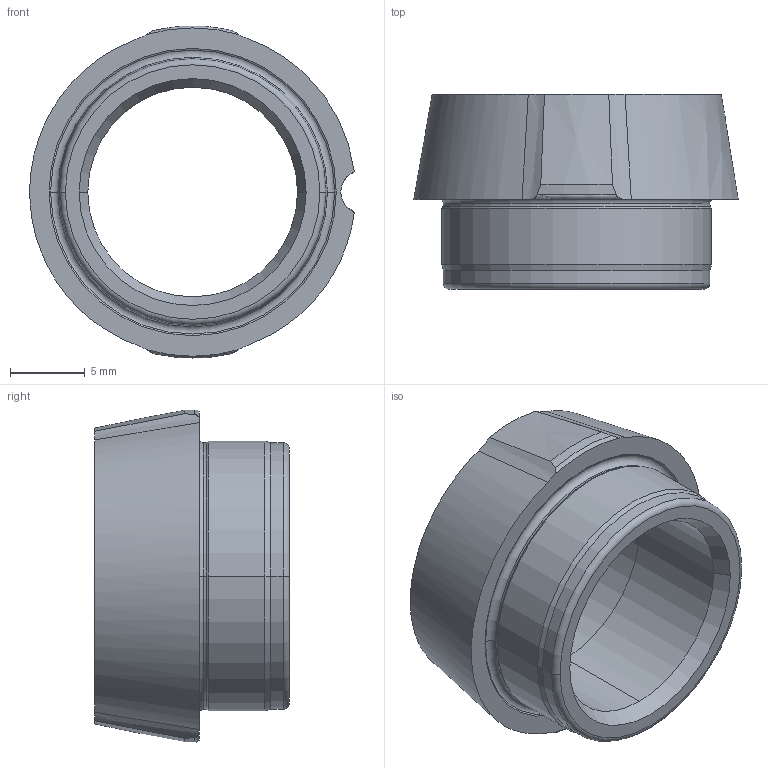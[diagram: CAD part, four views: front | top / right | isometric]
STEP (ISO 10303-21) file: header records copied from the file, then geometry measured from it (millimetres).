
FILE_DESCRIPTION (( 'STEP AP203' ), '1' );
FILE_NAME ('VXF0120-PC.STEP', '2014-11-25T05:00:05', ( '0393' ), ( 'Hewlett-Packard Company' ), 'SwSTEP 2.0', 'SolidWorks 2013', '' );
FILE_SCHEMA (( 'CONFIG_CONTROL_DESIGN' ));
Length unit declared in the file: millimetre
Products named in the file (1): VXF0120-PC
Bounding box: 21.67 x 13 x 22.17 mm (x, y, z)
Volume: 1804 mm3; surface area: 1675 mm2
Topology: 1 solids, 1 shells, 40 faces, 93 edges, 56 vertices
Faces by surface type: cone 16, cylinder 11, torus 8, plane 3, bspline 2
Entity records: 1330 total; most frequent: CARTESIAN_POINT 339, DIRECTION 204, ORIENTED_EDGE 186, EDGE_CURVE 93, AXIS2_PLACEMENT_3D 92, VERTEX_POINT 56, CIRCLE 53, EDGE_LOOP 43
